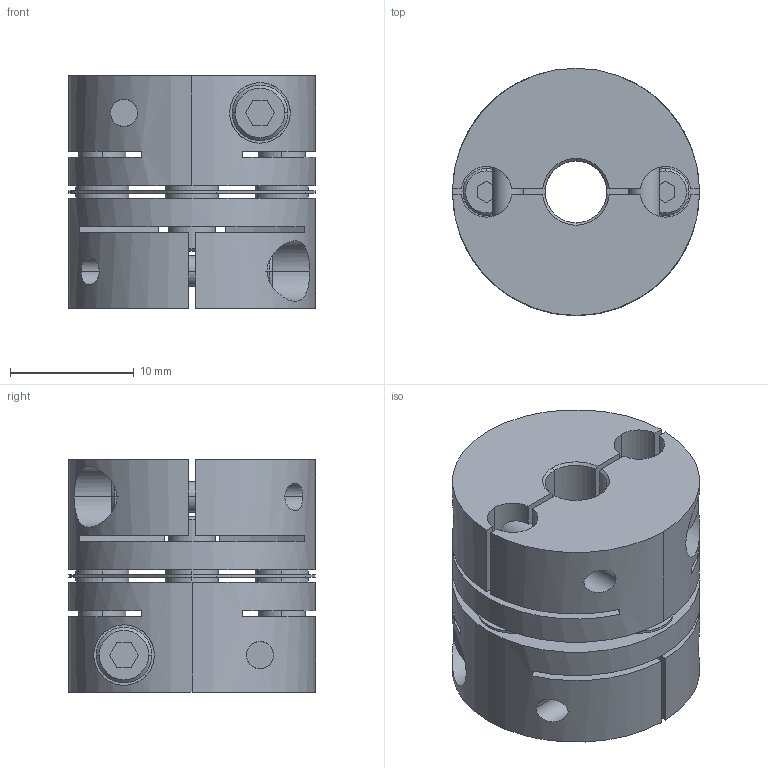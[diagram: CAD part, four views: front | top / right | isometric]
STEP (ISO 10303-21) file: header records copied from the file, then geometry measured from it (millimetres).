
FILE_DESCRIPTION((''),'2;1');
FILE_NAME('LAS-20C-5×6.stp','2011-08-10T08:54:40',(''),(''),'AutoCAD STEP 2000i','AutoCAD 2000i',', , ');
FILE_SCHEMA(('CONFIG_CONTROL_DESIGN'));
Length unit declared in the file: millimetre
Products named in the file (5): LAS-20C-4×4; 忣兜1; LA-2002-D04-1; LA-2002-D04; LAS20-ITA
Assembly tree (4 placements, depth 2):
  LAS-20C-4×4
    忣兜1
    LA-2002-D04-1
    LA-2002-D04
    LAS20-ITA
Bounding box: 20 x 20 x 18.8 mm (x, y, z)
Volume: 4581.8 mm3; surface area: 4550.9 mm2
Topology: 1 solids, 1 shells, 236 faces, 624 edges, 408 vertices
Faces by surface type: plane 112, cylinder 96, cone 28
Entity records: 8203 total; most frequent: CARTESIAN_POINT 2009, DIRECTION 1302, ORIENTED_EDGE 1248, EDGE_CURVE 624, AXIS2_PLACEMENT_3D 477, VERTEX_POINT 408, VECTOR 348, LINE 348
